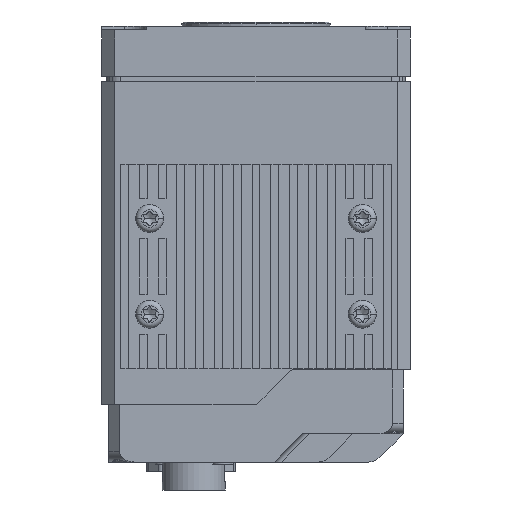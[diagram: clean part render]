
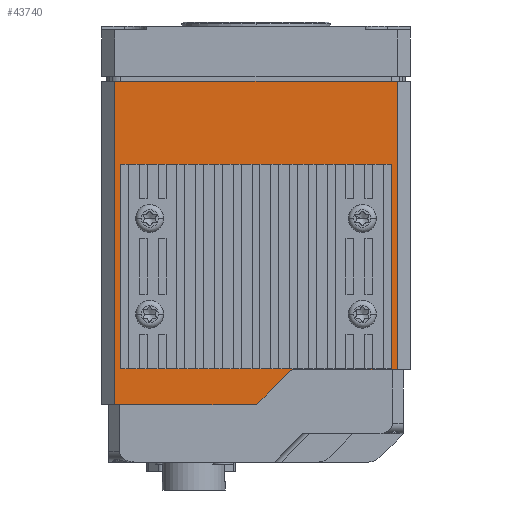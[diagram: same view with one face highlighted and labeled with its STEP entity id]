
A CAD part, left-side view. The second image highlights one B-rep face of the part: STEP entity #43740.
In plain terms, the highlighted planar face has unit normal (-1, 0, 0).
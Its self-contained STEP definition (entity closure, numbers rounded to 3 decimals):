
#7208=CARTESIAN_POINT('',(-29.,0.364,-55.05));
#7209=DIRECTION('',(1.,0.,0.));
#7210=DIRECTION('',(0.,-0.707,-0.707));
#7211=AXIS2_PLACEMENT_3D('',#7208,#7209,#7210);
#7213=CARTESIAN_POINT('',(-29.,-7.064,-50.45));
#7214=DIRECTION('',(-1.,0.,0.));
#7215=DIRECTION('',(0.,0.,1.));
#7216=AXIS2_PLACEMENT_3D('',#7213,#7214,#7215);
#7218=DIRECTION('',(0.,0.707,-0.707));
#7219=VECTOR('',#7218,8.505);
#7220=CARTESIAN_POINT('',(-29.,-6.357,-49.743));
#7221=LINE('',#7220,#7219);
#7266=DIRECTION('',(0.,-1.,0.));
#7267=VECTOR('',#7266,26.186);
#7268=CARTESIAN_POINT('',(-29.,26.55,-56.05));
#7269=LINE('',#7268,#7267);
#7340=DIRECTION('',(0.,-1.,0.));
#7341=VECTOR('',#7340,19.486);
#7342=CARTESIAN_POINT('',(-29.,-7.064,-49.45));
#7343=LINE('',#7342,#7341);
#7404=DIRECTION('',(0.,0.,1.));
#7405=VECTOR('',#7404,54.3);
#7406=CARTESIAN_POINT('',(-29.,-26.55,-49.45));
#7407=LINE('',#7406,#7405);
#7610=DIRECTION('',(0.,1.,0.));
#7611=VECTOR('',#7610,53.1);
#7612=CARTESIAN_POINT('',(-29.,-26.55,4.85));
#7613=LINE('',#7612,#7611);
#7686=DIRECTION('',(0.,0.,-1.));
#7687=VECTOR('',#7686,60.9);
#7688=CARTESIAN_POINT('',(-29.,26.55,4.85));
#7689=LINE('',#7688,#7687);
#15106=DIRECTION('',(0.,1.,0.));
#15107=VECTOR('',#15106,51.);
#15108=CARTESIAN_POINT('',(-29.,-25.5,-49.25));
#15109=LINE('',#15108,#15107);
#15110=DIRECTION('',(0.,0.,1.));
#15111=VECTOR('',#15110,38.5);
#15112=CARTESIAN_POINT('',(-29.,25.5,-49.25));
#15113=LINE('',#15112,#15111);
#15118=DIRECTION('',(0.,-1.,0.));
#15119=VECTOR('',#15118,51.);
#15120=CARTESIAN_POINT('',(-29.,25.5,-10.75));
#15121=LINE('',#15120,#15119);
#15126=DIRECTION('',(0.,0.,-1.));
#15127=VECTOR('',#15126,38.5);
#15128=CARTESIAN_POINT('',(-29.,-25.5,-10.75));
#15129=LINE('',#15128,#15127);
#31566=CARTESIAN_POINT('',(-29.,-0.343,-55.757));
#31567=VERTEX_POINT('',#31566);
#31568=CARTESIAN_POINT('',(-29.,0.364,-56.05));
#31569=VERTEX_POINT('',#31568);
#31570=CARTESIAN_POINT('',(-29.,-26.55,-49.45));
#31571=CARTESIAN_POINT('',(-29.,-26.55,4.85));
#31572=VERTEX_POINT('',#31570);
#31573=VERTEX_POINT('',#31571);
#31574=CARTESIAN_POINT('',(-29.,-7.064,-49.45));
#31575=VERTEX_POINT('',#31574);
#31576=CARTESIAN_POINT('',(-29.,-6.357,-49.743));
#31577=VERTEX_POINT('',#31576);
#31595=CARTESIAN_POINT('',(-29.,26.55,-56.05));
#31597=VERTEX_POINT('',#31595);
#31752=CARTESIAN_POINT('',(-29.,26.55,4.85));
#31753=VERTEX_POINT('',#31752);
#33688=CARTESIAN_POINT('',(-29.,-25.5,-49.25));
#33689=CARTESIAN_POINT('',(-29.,25.5,-49.25));
#33690=VERTEX_POINT('',#33688);
#33691=VERTEX_POINT('',#33689);
#33692=CARTESIAN_POINT('',(-29.,25.5,-10.75));
#33693=VERTEX_POINT('',#33692);
#33696=CARTESIAN_POINT('',(-29.,-25.5,-10.75));
#33697=VERTEX_POINT('',#33696);
#43708=CARTESIAN_POINT('',(-29.,0.,-25.6));
#43709=DIRECTION('',(1.,0.,0.));
#43710=DIRECTION('',(0.,-1.,0.));
#43711=AXIS2_PLACEMENT_3D('',#43708,#43709,#43710);
#43712=PLANE('',#43711);
#43713=ORIENTED_EDGE('',*,*,#43698,.T.);
#43715=ORIENTED_EDGE('',*,*,#43714,.F.);
#43717=ORIENTED_EDGE('',*,*,#43716,.F.);
#43719=ORIENTED_EDGE('',*,*,#43718,.F.);
#43721=ORIENTED_EDGE('',*,*,#43720,.F.);
#43723=ORIENTED_EDGE('',*,*,#43722,.F.);
#43725=ORIENTED_EDGE('',*,*,#43724,.T.);
#43727=ORIENTED_EDGE('',*,*,#43726,.T.);
#43728=EDGE_LOOP('',(#43713,#43715,#43717,#43719,#43721,#43723,#43725,#43727));
#43729=FACE_OUTER_BOUND('',#43728,.F.);
#43731=ORIENTED_EDGE('',*,*,#43730,.F.);
#43733=ORIENTED_EDGE('',*,*,#43732,.F.);
#43735=ORIENTED_EDGE('',*,*,#43734,.F.);
#43737=ORIENTED_EDGE('',*,*,#43736,.F.);
#43738=EDGE_LOOP('',(#43731,#43733,#43735,#43737));
#43739=FACE_BOUND('',#43738,.F.);
#43740=ADVANCED_FACE('',(#43729,#43739),#43712,.F.);
#7212=CIRCLE('',#7211,1.);
#7217=CIRCLE('',#7216,1.);
#43698=EDGE_CURVE('',#31567,#31569,#7212,.T.);
#43714=EDGE_CURVE('',#31597,#31569,#7269,.T.);
#43716=EDGE_CURVE('',#31753,#31597,#7689,.T.);
#43718=EDGE_CURVE('',#31573,#31753,#7613,.T.);
#43720=EDGE_CURVE('',#31572,#31573,#7407,.T.);
#43722=EDGE_CURVE('',#31575,#31572,#7343,.T.);
#43724=EDGE_CURVE('',#31575,#31577,#7217,.T.);
#43726=EDGE_CURVE('',#31577,#31567,#7221,.T.);
#43730=EDGE_CURVE('',#33690,#33691,#15109,.T.);
#43732=EDGE_CURVE('',#33697,#33690,#15129,.T.);
#43734=EDGE_CURVE('',#33693,#33697,#15121,.T.);
#43736=EDGE_CURVE('',#33691,#33693,#15113,.T.);
